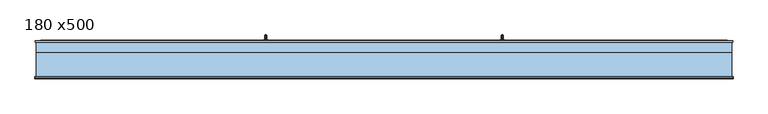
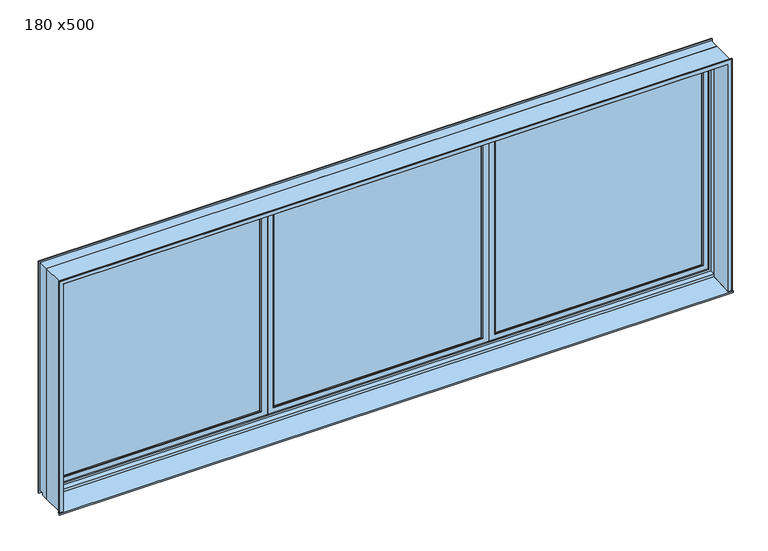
"""IFC4 building model written with IfcOpenShell, lengths in millimetres: window geometry, 3 Vantaux : 180 x500."""

from ifc_helpers import new_model, si_unit, frame, origin, place, context, project, spatial, polyline, outline, extrude, faceted_brep, source, transform, mapped, element, save


def window_180_x500_5ac30607(model_context):
    return source(origin(), model_context, "Body", "SolidModel", [
        faceted_brep([(-845.2072654, 143.0471229, 1358.0), (-855.2430857, 143.0471229, 1358.0), (-858.2251756, 143.0471229, 1355.0179101), (-858.2251756, 143.0471229, 1344.9820899), (-855.2430857, 143.0471229, 1342.0), (-845.2072654, 143.0471229, 1342.0), (-842.2251756, 143.0471229, 1344.9820899), (-842.2251756, 143.0471229, 1355.0179101), (-842.2251756, 160.9442146, 1355.0179101), (-845.2072654, 162.665925, 1358.0), (-842.2251756, 155.1500311, 1344.9820899), (-842.2251756, 163.0292127, 1331.334947), (-842.2251756, 163.0292127, 1251.9658946), (-842.2251756, 173.065033, 1251.9658946), (-842.2251756, 173.065033, 1334.0240369), (-845.2072654, 153.4283207, 1342.0), (-855.2430857, 153.4283207, 1342.0), (-858.2251756, 155.1500311, 1344.9820899), (-858.2251756, 160.9442146, 1355.0179101), (-858.2251756, 173.065033, 1334.0240369), (-858.2251756, 173.065033, 1251.9658946), (-858.2251756, 163.0292127, 1251.9658946), (-858.2251756, 163.0292127, 1331.334947), (-855.2430857, 162.665925, 1358.0), (-845.2072654, 176.0471229, 1334.8230855), (-845.2072654, 160.0471229, 1330.5358984), (-855.2430857, 160.0471229, 1330.5358984), (-855.2430857, 176.0471229, 1334.8230855), (-854.4287855, 174.0812283, 1250.0), (-846.0215656, 174.0812283, 1250.0), (-844.1910701, 172.2507328, 1250.0), (-844.1910701, 163.8435129, 1250.0), (-846.0215656, 162.0130174, 1250.0), (-854.4287855, 162.0130174, 1250.0), (-856.259281, 163.8435129, 1250.0), (-856.259281, 172.2507328, 1250.0), (-845.2072654, 176.0471229, 1251.9658946), (-845.2072654, 160.0471229, 1251.9658946), (-855.2430857, 160.0471229, 1251.9658946), (-855.2430857, 176.0471229, 1251.9658946)], [[[0, 1, 2, 3, 4, 5, 6, 7]], [[7, 8, 9, 0]], [[6, 10, 11, 12, 13, 14, 8, 7]], [[5, 15, 10, 6]], [[4, 16, 15, 5]], [[3, 17, 16, 4]], [[2, 18, 19, 20, 21, 22, 17, 3]], [[1, 23, 18, 2]], [[0, 9, 23, 1]], [[8, 14, 24, 9]], [[10, 15, 25, 11]], [[16, 26, 25, 15]], [[17, 22, 26, 16]], [[18, 23, 27, 19]], [[9, 24, 27, 23]], [[28, 29, 30, 31, 32, 33, 34, 35]], [[14, 13, 36, 24]], [[25, 37, 12, 11]], [[26, 38, 37, 25]], [[22, 21, 38, 26]], [[27, 39, 20, 19]], [[24, 36, 39, 27]], [[20, 39, 28, 35]], [[35, 34, 21, 20]], [[34, 33, 38, 21]], [[33, 32, 37, 38]], [[32, 31, 12, 37]], [[31, 30, 13, 12]], [[30, 29, 36, 13]], [[39, 36, 29, 28]]]),
        extrude(outline(polyline([(1320.0, -842.2251756), (1325.0, -837.2251756), (1375.0, -837.2251756), (1380.0, -842.2251756), (1380.0, -858.2251756), (1375.0, -863.2251756), (1325.0, -863.2251756), (1320.0, -858.2251756), (1320.0, -842.2251756)])), frame((0.0, 138.0471229, 0.0), z_axis=(0.0, 1.0, 0.0), x_axis=(0.0, 0.0, 1.0)), (0.0, 0.0, 1.0), 5.0),
        faceted_brep([(855.2430857, 143.0471229, 1358.0), (845.2072654, 143.0471229, 1358.0), (842.2251756, 143.0471229, 1355.0179101), (842.2251756, 143.0471229, 1344.9820899), (845.2072654, 143.0471229, 1342.0), (855.2430857, 143.0471229, 1342.0), (858.2251756, 143.0471229, 1344.9820899), (858.2251756, 143.0471229, 1355.0179101), (858.2251756, 160.9442146, 1355.0179101), (855.2430857, 162.665925, 1358.0), (858.2251756, 155.1500311, 1344.9820899), (858.2251756, 163.0292127, 1331.334947), (858.2251756, 163.0292127, 1251.9658946), (858.2251756, 173.065033, 1251.9658946), (858.2251756, 173.065033, 1334.0240369), (855.2430857, 153.4283207, 1342.0), (845.2072654, 153.4283207, 1342.0), (842.2251756, 155.1500311, 1344.9820899), (842.2251756, 160.9442146, 1355.0179101), (842.2251756, 173.065033, 1334.0240369), (842.2251756, 173.065033, 1251.9658946), (842.2251756, 163.0292127, 1251.9658946), (842.2251756, 163.0292127, 1331.334947), (845.2072654, 162.665925, 1358.0), (855.2430857, 176.0471229, 1334.8230855), (855.2430857, 160.0471229, 1330.5358984), (845.2072654, 160.0471229, 1330.5358984), (845.2072654, 176.0471229, 1334.8230855), (846.0215656, 174.0812283, 1250.0), (854.4287855, 174.0812283, 1250.0), (856.259281, 172.2507328, 1250.0), (856.259281, 163.8435129, 1250.0), (854.4287855, 162.0130174, 1250.0), (846.0215656, 162.0130174, 1250.0), (844.1910701, 163.8435129, 1250.0), (844.1910701, 172.2507328, 1250.0), (855.2430857, 176.0471229, 1251.9658946), (855.2430857, 160.0471229, 1251.9658946), (845.2072654, 160.0471229, 1251.9658946), (845.2072654, 176.0471229, 1251.9658946)], [[[0, 1, 2, 3, 4, 5, 6, 7]], [[7, 8, 9, 0]], [[6, 10, 11, 12, 13, 14, 8, 7]], [[5, 15, 10, 6]], [[4, 16, 15, 5]], [[3, 17, 16, 4]], [[2, 18, 19, 20, 21, 22, 17, 3]], [[1, 23, 18, 2]], [[0, 9, 23, 1]], [[8, 14, 24, 9]], [[10, 15, 25, 11]], [[16, 26, 25, 15]], [[17, 22, 26, 16]], [[18, 23, 27, 19]], [[9, 24, 27, 23]], [[28, 29, 30, 31, 32, 33, 34, 35]], [[14, 13, 36, 24]], [[25, 37, 12, 11]], [[26, 38, 37, 25]], [[22, 21, 38, 26]], [[27, 39, 20, 19]], [[24, 36, 39, 27]], [[20, 39, 28, 35]], [[35, 34, 21, 20]], [[34, 33, 38, 21]], [[33, 32, 37, 38]], [[32, 31, 12, 37]], [[31, 30, 13, 12]], [[30, 29, 36, 13]], [[39, 36, 29, 28]]]),
        extrude(outline(polyline([(1320.0, 858.2251756), (1325.0, 863.2251756), (1375.0, 863.2251756), (1380.0, 858.2251756), (1380.0, 842.2251756), (1375.0, 837.2251756), (1325.0, 837.2251756), (1320.0, 842.2251756), (1320.0, 858.2251756)])), frame((0.0, 138.0471229, 0.0), z_axis=(0.0, 1.0, 0.0), x_axis=(0.0, 0.0, 1.0)), (0.0, 0.0, 1.0), 5.0),
        faceted_brep([(823.7251756, 95.0, 2568.5), (823.7251756, 95.0, 825.0), (825.2251756, 96.5, 823.5), (825.2251756, 96.5, 2570.0), (825.2251756, 136.5471229, 823.5), (825.2251756, 136.5471229, 2570.0), (-823.7251756, 95.0, 825.0), (-825.2251756, 96.5, 823.5), (-823.7251756, 95.0, 2568.5), (779.2840501, 95.0, 2524.0588745), (779.2840501, 95.0, 869.4411255), (-779.2840501, 95.0, 869.4411255), (-779.2840501, 95.0, 2524.0588745), (775.2251756, 99.0588745, 2520.0), (775.2251756, 99.0588745, 873.5), (-775.2251756, 99.0588745, 873.5), (775.2251756, 108.5235614, 2520.0), (775.2251756, 108.5235614, 873.5), (-775.2251756, 108.5235614, 873.5), (781.2251756, 108.5235614, 2526.0), (781.2251756, 108.5235614, 867.5), (-781.2251756, 108.5235614, 867.5), (-781.2251756, 108.5235614, 2526.0), (-775.2251756, 108.5235614, 2520.0), (781.2251756, 124.5235614, 2526.0), (781.2251756, 124.5235614, 867.5), (-781.2251756, 124.5235614, 867.5), (-781.2251756, 124.5235614, 2526.0), (775.2251756, 124.5235614, 2520.0), (775.2251756, 124.5235614, 873.5), (-775.2251756, 124.5235614, 873.5), (-775.2251756, 124.5235614, 2520.0), (775.2251756, 133.9882484, 2520.0), (775.2251756, 133.9882484, 873.5), (-775.2251756, 133.9882484, 873.5), (779.2840501, 138.0471229, 2524.0588745), (779.2840501, 138.0471229, 869.4411255), (-779.2840501, 138.0471229, 869.4411255), (823.7251756, 138.0471229, 2568.5), (823.7251756, 138.0471229, 825.0), (-823.7251756, 138.0471229, 825.0), (-823.7251756, 138.0471229, 2568.5), (-779.2840501, 138.0471229, 2524.0588745), (-825.2251756, 136.5471229, 823.5), (-825.2251756, 96.5, 2570.0), (-775.2251756, 99.0588745, 2520.0), (-775.2251756, 133.9882484, 2520.0), (-825.2251756, 136.5471229, 2570.0)], [[[0, 1, 2, 3]], [[3, 2, 4, 5]], [[1, 6, 7, 2]], [[1, 0, 8, 6], [9, 10, 11, 12]], [[13, 14, 10, 9]], [[14, 15, 11, 10]], [[16, 17, 14, 13]], [[17, 18, 15, 14]], [[19, 20, 21, 22], [17, 16, 23, 18]], [[24, 25, 20, 19]], [[25, 26, 21, 20]], [[25, 24, 27, 26], [28, 29, 30, 31]], [[32, 33, 29, 28]], [[33, 34, 30, 29]], [[35, 36, 33, 32]], [[36, 37, 34, 33]], [[38, 39, 40, 41], [36, 35, 42, 37]], [[5, 4, 39, 38]], [[4, 43, 40, 39]], [[2, 7, 43, 4]], [[6, 8, 44, 7]], [[15, 45, 12, 11]], [[18, 23, 45, 15]], [[26, 27, 22, 21]], [[34, 46, 31, 30]], [[37, 42, 46, 34]], [[43, 47, 41, 40]], [[7, 44, 47, 43]], [[8, 0, 3, 44]], [[45, 13, 9, 12]], [[23, 16, 13, 45]], [[27, 24, 19, 22]], [[46, 32, 28, 31]], [[42, 35, 32, 46]], [[47, 5, 38, 41]], [[44, 3, 5, 47]]]),
        faceted_brep([(2420.0, 99.0588745, 2520.0), (2420.0, 99.0588745, 873.5), (2424.0588745, 95.0, 869.4411255), (2424.0588745, 95.0, 2524.0588745), (2468.5, 95.0, 2568.5), (826.7251756, 95.0, 2568.5), (826.7251756, 95.0, 825.0), (2468.5, 95.0, 825.0), (871.1663011, 95.0, 2524.0588745), (871.1663011, 95.0, 869.4411255), (875.2251756, 99.0588745, 873.5), (2420.0, 108.5235614, 2520.0), (2420.0, 108.5235614, 873.5), (875.2251756, 108.5235614, 873.5), (869.2251756, 108.5235614, 2526.0), (2426.0, 108.5235614, 2526.0), (2426.0, 108.5235614, 867.5), (869.2251756, 108.5235614, 867.5), (875.2251756, 108.5235614, 2520.0), (2426.0, 124.5235614, 2526.0), (2426.0, 124.5235614, 867.5), (869.2251756, 124.5235614, 867.5), (869.2251756, 124.5235614, 2526.0), (875.2251756, 124.5235614, 2520.0), (2420.0, 124.5235614, 2520.0), (2420.0, 124.5235614, 873.5), (875.2251756, 124.5235614, 873.5), (2420.0, 133.9882484, 2520.0), (2420.0, 133.9882484, 873.5), (875.2251756, 133.9882484, 873.5), (2424.0588745, 138.0471229, 2524.0588745), (2424.0588745, 138.0471229, 869.4411255), (871.1663011, 138.0471229, 869.4411255), (826.7251756, 138.0471229, 2568.5), (2468.5, 138.0471229, 2568.5), (2468.5, 138.0471229, 825.0), (826.7251756, 138.0471229, 825.0), (871.1663011, 138.0471229, 2524.0588745), (2470.0, 96.5, 2570.0), (2470.0, 96.5, 823.5), (2470.0, 136.5471229, 823.5), (2470.0, 136.5471229, 2570.0), (825.2251756, 96.5, 823.5), (825.2251756, 136.5471229, 823.5), (875.2251756, 99.0588745, 2520.0), (875.2251756, 133.9882484, 2520.0), (825.2251756, 96.5, 2570.0), (825.2251756, 136.5471229, 2570.0)], [[[0, 1, 2, 3]], [[4, 5, 6, 7], [8, 3, 2, 9]], [[1, 10, 9, 2]], [[11, 12, 1, 0]], [[12, 13, 10, 1]], [[14, 15, 16, 17], [11, 18, 13, 12]], [[19, 20, 16, 15]], [[20, 21, 17, 16]], [[19, 22, 21, 20], [23, 24, 25, 26]], [[27, 28, 25, 24]], [[28, 29, 26, 25]], [[30, 31, 28, 27]], [[31, 32, 29, 28]], [[33, 34, 35, 36], [30, 37, 32, 31]], [[38, 39, 40, 41]], [[41, 40, 35, 34]], [[39, 42, 43, 40]], [[4, 7, 39, 38]], [[10, 44, 8, 9]], [[13, 18, 44, 10]], [[21, 22, 14, 17]], [[29, 45, 23, 26]], [[32, 37, 45, 29]], [[40, 43, 36, 35]], [[42, 46, 47, 43]], [[7, 6, 42, 39]], [[6, 5, 46, 42]], [[43, 47, 33, 36]], [[44, 0, 3, 8]], [[18, 11, 0, 44]], [[22, 19, 15, 14]], [[45, 27, 24, 23]], [[37, 30, 27, 45]], [[46, 38, 41, 47]], [[47, 41, 34, 33]], [[5, 4, 38, 46]]]),
        faceted_brep([(-2475.6755267, 45.0, 813.8687943), (-2475.6755267, 50.0, 814.2950679), (-2475.6755267, 50.0, 800.0), (-2475.6755267, 47.0, 800.0), (-2475.6755267, 47.0, 795.0), (-2475.6755267, 45.0, 795.0), (2475.6755267, 45.0, 795.0), (2475.6755267, 45.0, 813.8687943), (2475.6755267, 47.0, 795.0), (2475.6755267, 47.0, 800.0), (-2475.0, 50.6755267, 800.0), (-2475.0, 85.0, 800.0), (-2460.0, 85.0, 800.0), (-2460.0, 95.0, 800.0), (-2500.0, 95.0, 800.0), (-2500.0, 125.0, 800.0), (2500.0, 125.0, 800.0), (2500.0, 95.0, 800.0), (2460.0, 95.0, 800.0), (2460.0, 85.0, 800.0), (2475.0, 85.0, 800.0), (2475.0, 50.6755267, 800.0), (2475.6755267, 50.0, 800.0), (-2475.6755267, 50.0, 783.5), (-2475.6755267, 50.0, 2575.6755267), (2475.6755267, 50.0, 2575.6755267), (2475.6755267, 50.0, 814.2950679), (2475.6755267, 50.0, 783.5), (2500.0, 50.0, 783.5), (2500.0, 50.0, 2600.0), (-2500.0, 50.0, 2600.0), (-2500.0, 50.0, 783.5), (2475.0, 50.6755267, 814.3526597), (2475.0, 85.0, 817.278983), (-2475.0, 85.0, 817.278983), (-2475.0, 50.6755267, 814.3526597), (-2510.0, 125.0, 783.5), (2510.0, 125.0, 783.5), (2510.0, 125.0, 2610.0), (-2510.0, 125.0, 2610.0), (-2500.0, 125.0, 2600.0), (2500.0, 125.0, 2600.0), (-2510.0, 133.0, 2610.0), (-2510.0, 133.0, 783.5), (2510.0, 133.0, 783.5), (2510.0, 133.0, 2610.0), (-2500.0, 95.0, 783.5), (-2460.0, 95.0, 783.5), (-2460.0, 85.0, 783.5), (-2475.0, 85.0, 783.5), (-2475.0, 50.6755267, 783.5), (2475.0, 50.6755267, 783.5), (2475.0, 85.0, 783.5), (2460.0, 85.0, 783.5), (2460.0, 95.0, 783.5), (2500.0, 95.0, 783.5), (-2470.0, 133.0, 2570.0), (-2470.0, 133.0, 823.5), (2470.0, 133.0, 823.5), (2470.0, 133.0, 2570.0), (2470.0, 95.0, 823.5), (2470.0, 95.0, 2570.0), (-2470.0, 95.0, 823.5), (-2470.0, 95.0, 2570.0), (-2460.0, 95.0, 2560.0), (-2460.0, 95.0, 833.5), (2460.0, 95.0, 833.5), (2460.0, 95.0, 2560.0), (2460.0, 85.0, 833.5), (2460.0, 85.0, 2560.0), (-2460.0, 85.0, 833.5), (-2460.0, 85.0, 2560.0), (-2475.0, 85.0, 2575.0), (2475.0, 85.0, 2575.0), (-2475.0, 50.6755267, 2575.0), (2475.0, 50.6755267, 2575.0)], [[[0, 1, 2, 3, 4, 5]], [[5, 6, 7, 0]], [[4, 8, 6, 5]], [[3, 9, 8, 4]], [[3, 2, 10, 11, 12, 13, 14, 15, 16, 17, 18, 19, 20, 21, 22, 9]], [[23, 2, 1, 24, 25, 26, 22, 27, 28, 29, 30, 31]], [[7, 26, 32, 33, 34, 35, 1, 0]], [[9, 22, 26, 7, 6, 8]], [[36, 37, 38, 39], [16, 15, 40, 41]], [[36, 39, 42, 43]], [[37, 44, 45, 38]], [[23, 31, 46, 47, 48, 49, 50]], [[43, 44, 37, 36]], [[27, 51, 52, 53, 54, 55, 28]], [[28, 55, 17, 16, 41, 29]], [[40, 15, 14, 46, 31, 30]], [[44, 43, 42, 45], [56, 57, 58, 59]], [[59, 58, 60, 61]], [[57, 62, 60, 58]], [[63, 62, 57, 56]], [[47, 46, 14, 13]], [[55, 54, 18, 17]], [[61, 60, 62, 63], [64, 65, 66, 67]], [[67, 66, 68, 69]], [[53, 19, 18, 54]], [[65, 70, 68, 66]], [[47, 13, 12, 48]], [[71, 70, 65, 64]], [[48, 12, 11, 49]], [[72, 34, 33, 73], [69, 68, 70, 71]], [[52, 20, 19, 53]], [[49, 11, 10, 50]], [[74, 35, 34, 72]], [[73, 33, 32, 75]], [[51, 21, 20, 52]], [[24, 1, 35, 74]], [[50, 10, 2, 23]], [[27, 22, 21, 51]], [[75, 32, 26, 25]], [[38, 45, 42, 39]], [[30, 29, 41, 40]], [[63, 56, 59, 61]], [[71, 64, 67, 69]], [[72, 73, 75, 74]], [[24, 74, 75, 25]]]),
        extrude(outline(polyline([(-2426.0, 108.5), (-2426.0, 124.5), (-869.2251756, 124.5), (-869.2251756, 108.5), (-2426.0, 108.5)])), frame((0.0, 0.0, 867.5), z_axis=(0.0, 0.0, 1.0), x_axis=(1.0, 0.0, 0.0)), (0.0, 0.0, 1.0), 1658.5),
        extrude(outline(polyline([(869.2251756, 108.5), (869.2251756, 124.5), (2426.0, 124.5), (2426.0, 108.5), (869.2251756, 108.5)])), frame((0.0, 0.0, 867.5), z_axis=(0.0, 0.0, 1.0), x_axis=(1.0, 0.0, 0.0)), (0.0, 0.0, 1.0), 1658.5),
        extrude(outline(polyline([(-781.2251756, 108.5), (-781.2251756, 124.5), (781.2251756, 124.5), (781.2251756, 108.5), (-781.2251756, 108.5)])), frame((0.0, 0.0, 867.5), z_axis=(0.0, 0.0, 1.0), x_axis=(1.0, 0.0, 0.0)), (0.0, 0.0, 1.0), 1658.5),
        faceted_brep([(-825.2251756, 96.5, 2570.0), (-825.2251756, 96.5, 823.5), (-825.2251756, 136.5471229, 823.5), (-825.2251756, 136.5471229, 2570.0), (-826.7251756, 138.0471229, 825.0), (-826.7251756, 138.0471229, 2568.5), (-2470.0, 96.5, 823.5), (-2470.0, 136.5471229, 823.5), (-826.7251756, 95.0, 2568.5), (-826.7251756, 95.0, 825.0), (-871.1663011, 138.0471229, 2524.0588745), (-871.1663011, 138.0471229, 869.4411255), (-875.2251756, 133.9882484, 873.5), (-875.2251756, 133.9882484, 2520.0), (-875.2251756, 124.5235614, 873.5), (-875.2251756, 124.5235614, 2520.0), (-2424.0588745, 138.0471229, 869.4411255), (-2420.0, 133.9882484, 873.5), (-2468.5, 138.0471229, 825.0), (-2468.5, 138.0471229, 2568.5), (-2424.0588745, 138.0471229, 2524.0588745), (-869.2251756, 124.5235614, 867.5), (-869.2251756, 124.5235614, 2526.0), (-2426.0, 124.5235614, 2526.0), (-2426.0, 124.5235614, 867.5), (-2420.0, 124.5235614, 873.5), (-2420.0, 124.5235614, 2520.0), (-869.2251756, 108.5235614, 867.5), (-869.2251756, 108.5235614, 2526.0), (-2426.0, 108.5235614, 867.5), (-2426.0, 108.5235614, 2526.0), (-875.2251756, 108.5235614, 873.5), (-875.2251756, 108.5235614, 2520.0), (-2420.0, 108.5235614, 2520.0), (-2420.0, 108.5235614, 873.5), (-875.2251756, 99.0588745, 873.5), (-875.2251756, 99.0588745, 2520.0), (-871.1663011, 95.0, 869.4411255), (-871.1663011, 95.0, 2524.0588745), (-2420.0, 99.0588745, 873.5), (-2468.5, 95.0, 2568.5), (-2468.5, 95.0, 825.0), (-2424.0588745, 95.0, 869.4411255), (-2424.0588745, 95.0, 2524.0588745), (-2470.0, 96.5, 2570.0), (-2470.0, 136.5471229, 2570.0), (-2420.0, 133.9882484, 2520.0), (-2420.0, 99.0588745, 2520.0)], [[[0, 1, 2, 3]], [[3, 2, 4, 5]], [[1, 6, 7, 2]], [[8, 9, 1, 0]], [[10, 11, 12, 13]], [[13, 12, 14, 15]], [[11, 16, 17, 12]], [[5, 4, 18, 19], [11, 10, 20, 16]], [[21, 22, 23, 24], [15, 14, 25, 26]], [[12, 17, 25, 14]], [[22, 21, 27, 28]], [[28, 27, 29, 30], [31, 32, 33, 34]], [[21, 24, 29, 27]], [[32, 31, 35, 36]], [[36, 35, 37, 38]], [[31, 34, 39, 35]], [[9, 8, 40, 41], [38, 37, 42, 43]], [[35, 39, 42, 37]], [[2, 7, 18, 4]], [[6, 44, 45, 7]], [[9, 41, 6, 1]], [[16, 20, 46, 17]], [[17, 46, 26, 25]], [[24, 23, 30, 29]], [[34, 33, 47, 39]], [[39, 47, 43, 42]], [[7, 45, 19, 18]], [[41, 40, 44, 6]], [[44, 0, 3, 45]], [[20, 10, 13, 46]], [[46, 13, 15, 26]], [[23, 22, 28, 30]], [[33, 32, 36, 47]], [[47, 36, 38, 43]], [[40, 8, 0, 44]], [[45, 3, 5, 19]]]),
        faceted_brep([(2510.6755267, -125.0, 784.2945446), (2510.6755267, -140.0, 783.5020918), (2510.6755267, -140.0, 771.0), (2510.6755267, -133.5, 771.0), (2510.6755267, -133.5, 772.5), (2510.6755267, -138.5, 772.5), (2510.6755267, -138.5, 782.0792453), (2510.6755267, -125.0, 782.7924528), (2475.6755267, -125.0, 782.7924528), (2475.6755267, -125.0, 783.5), (2500.0, -125.0, 783.5), (2500.0, -125.0, 2600.0), (-2500.0, -125.0, 2600.0), (-2500.0, -125.0, 783.5), (-2475.6755267, -125.0, 783.5), (-2475.6755267, -125.0, 782.7924528), (-2510.6755267, -125.0, 782.7924528), (-2510.6755267, -125.0, 784.2945446), (-2508.0, -125.0, 784.2945446), (-2508.0, -125.0, 2608.0), (2508.0, -125.0, 2608.0), (2508.0, -125.0, 784.2945446), (-2510.6755267, -138.5, 782.0792453), (-2475.6755267, -111.6071429, 783.5), (-2475.6755267, 50.0, 792.0377358), (-2475.6755267, 60.0, 792.5660377), (2475.6755267, 60.0, 792.5660377), (2475.6755267, 50.0, 792.0377358), (2475.6755267, -111.6071429, 783.5), (-2510.6755267, -138.5, 772.5), (-2510.6755267, -133.5, 772.5), (-2510.6755267, -133.5, 771.0), (-2510.6755267, -140.0, 771.0), (-2510.6755267, -140.0, 783.5020918), (2508.0, -131.1421356, 783.9700545), (2506.1421356, -133.0, 783.8719031), (2478.8578644, -133.0, 783.8719031), (2475.6755267, -129.8176624, 784.0400266), (2475.6755267, -125.0, 784.2945446), (2475.6755267, 50.0, 793.5398277), (2475.6755267, 58.5, 793.9888843), (-2475.6755267, 58.5, 793.9888843), (-2475.6755267, 50.0, 793.5398277), (-2475.6755267, -125.0, 784.2945446), (-2475.6755267, -129.8176624, 784.0400266), (-2478.8578644, -133.0, 783.8719031), (-2506.1421356, -133.0, 783.8719031), (-2508.0, -131.1421356, 783.9700545), (2508.0, -131.1421356, 2608.0), (-2508.0, -131.1421356, 2608.0), (-2475.6755267, 58.5, 797.4781943), (-2475.6755267, 60.0, 797.4781943), (-2475.6755267, 50.0, 783.5), (-2500.0, 50.0, 783.5), (-2500.0, 50.0, 2600.0), (2500.0, 50.0, 2600.0), (2500.0, 50.0, 783.5), (2475.6755267, 50.0, 783.5), (2475.6755267, 60.0, 797.4781943), (2475.6755267, 58.5, 797.4781943), (2475.6755267, 50.0, 2575.6755267), (2475.6755267, -129.8176624, 2575.6755267), (-2475.6755267, -129.8176624, 2575.6755267), (-2475.6755267, 50.0, 2575.6755267), (-2506.1421356, -133.0, 2606.1421356), (-2478.8578644, -133.0, 2578.8578644), (2478.8578644, -133.0, 2578.8578644), (2506.1421356, -133.0, 2606.1421356)], [[[0, 1, 2, 3, 4, 5, 6, 7]], [[7, 8, 9, 10, 11, 12, 13, 14, 15, 16, 17, 18, 19, 20, 21, 0]], [[6, 22, 16, 15, 23, 24, 25, 26, 27, 28, 8, 7]], [[5, 29, 22, 6]], [[4, 30, 29, 5]], [[3, 31, 30, 4]], [[2, 32, 31, 3]], [[1, 33, 32, 2]], [[0, 21, 34, 35, 36, 37, 38, 39, 40, 41, 42, 43, 44, 45, 46, 47, 18, 17, 33, 1]], [[48, 34, 21, 20]], [[19, 18, 47, 49]], [[33, 17, 16, 22, 29, 30, 31, 32]], [[25, 24, 42, 41, 50, 51]], [[14, 23, 15]], [[52, 23, 14, 13, 53]], [[12, 54, 53, 13]], [[55, 11, 10, 56]], [[56, 10, 9, 28, 57]], [[8, 28, 9]], [[40, 39, 27, 26, 58, 59]], [[57, 28, 27]], [[60, 39, 38, 37, 61]], [[51, 58, 26, 25]], [[62, 44, 43, 42, 63]], [[52, 24, 23]], [[49, 47, 46, 64]], [[64, 46, 45, 65, 66, 36, 35, 67]], [[65, 45, 44, 62]], [[41, 40, 59, 50]], [[61, 37, 36, 66]], [[67, 35, 34, 48]], [[50, 59, 58, 51]], [[53, 54, 55, 56, 57, 27, 39, 60, 63, 42, 24, 52]], [[19, 49, 48, 20]], [[54, 12, 11, 55]], [[60, 61, 62, 63]], [[64, 67, 48, 49]], [[65, 62, 61, 66]]]),
        extrude(outline(polyline([(60.0, 800.0), (95.0, 800.0), (95.0, 765.0), (-85.0, 765.0), (-85.0, 784.9056604), (60.0, 792.5660377), (60.0, 800.0)])), frame((-2475.6755267, 0.0, 0.0), z_axis=(1.0, 0.0, 0.0), x_axis=(0.0, 1.0, 0.0)), (0.0, 0.0, 1.0), 4951.3510535),
    ])


if __name__ == "__main__":
    model = new_model("IFC4")
    model_context = context("Model", 3, world=origin())
    ifc_project = project(units=[si_unit("LENGTHUNIT", "METRE", prefix="MILLI")], contexts=[model_context])
    site = spatial("IfcSite", under=ifc_project)
    building = spatial("IfcBuilding", under=site)
    placement = place(None, origin())
    window_180_x500_shape = window_180_x500_5ac30607(model_context)
    element("IfcWindow", 1, ObjectType="3 Vantaux : 180 x500", at=placement, inside=building, context=model_context, shape_type="MappedRepresentation", body=[
        mapped(window_180_x500_shape, transform((0.0, 0.0, 0.0), x_axis=(1.0, 0.0, 0.0), y_axis=(0.0, 1.0, 0.0), z_axis=(0.0, 0.0, 1.0))),
    ])
    save(model, "model.ifc")
